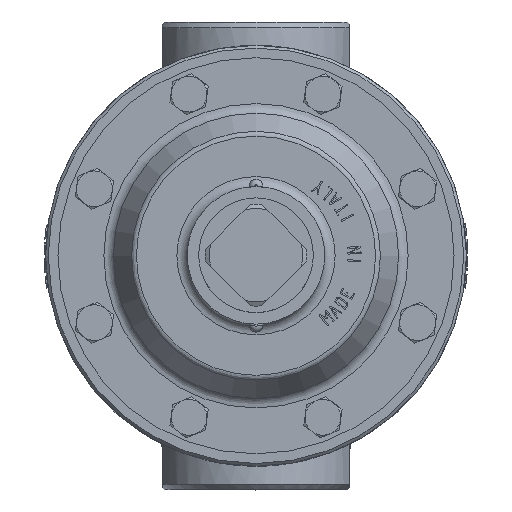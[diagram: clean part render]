
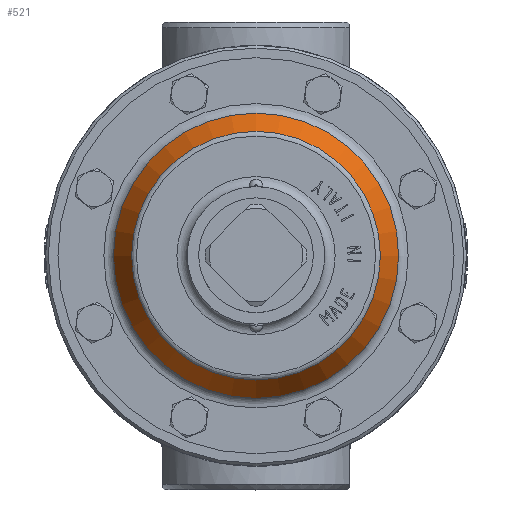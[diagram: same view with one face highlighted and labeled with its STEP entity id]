
A CAD part, top view. The second image highlights one B-rep face of the part: STEP entity #521.
In plain terms, the highlighted conical face has half-angle 30 degrees and reference radius 48.526 mm.
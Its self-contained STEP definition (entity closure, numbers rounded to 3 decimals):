
#521=ADVANCED_FACE('',(#4463,#4465),#4467,.T.);
#4463=FACE_OUTER_BOUND('',#4464,.T.);
#4464=EDGE_LOOP('',(#11294));
#4465=FACE_OUTER_BOUND('',#4466,.T.);
#4466=EDGE_LOOP('',(#11295));
#4467=CONICAL_SURFACE('',#4468,48.526,0.524);
#4468=AXIS2_PLACEMENT_3D('',#4469,#4470,#4471);
#4469=CARTESIAN_POINT('',(0.,0.,56.95));
#4470=DIRECTION('',(0.,0.,-1.));
#4471=DIRECTION('',(0.,-1.,0.));
#11294=ORIENTED_EDGE('',*,*,#15515,.T.);
#11295=ORIENTED_EDGE('',*,*,#15575,.F.);
#15515=EDGE_CURVE('',#18930,#18930,#18931,.T.);
#15575=EDGE_CURVE('',#19012,#19012,#19013,.T.);
#18930=VERTEX_POINT('',#38380);
#18931=CIRCLE('',#38381,51.845);
#19012=VERTEX_POINT('',#38856);
#19013=CIRCLE('',#38857,45.206);
#38380=CARTESIAN_POINT('',(0.,51.845,51.2));
#38381=AXIS2_PLACEMENT_3D('',#38382,#38383,#38384);
#38382=CARTESIAN_POINT('',(0.,0.,51.2));
#38383=DIRECTION('',(0.,0.,1.));
#38384=DIRECTION('',(0.,1.,0.));
#38856=CARTESIAN_POINT('',(0.,45.206,62.7));
#38857=AXIS2_PLACEMENT_3D('',#38858,#38859,#38860);
#38858=CARTESIAN_POINT('',(0.,0.,62.7));
#38859=DIRECTION('',(0.,0.,1.));
#38860=DIRECTION('',(0.,1.,0.));
